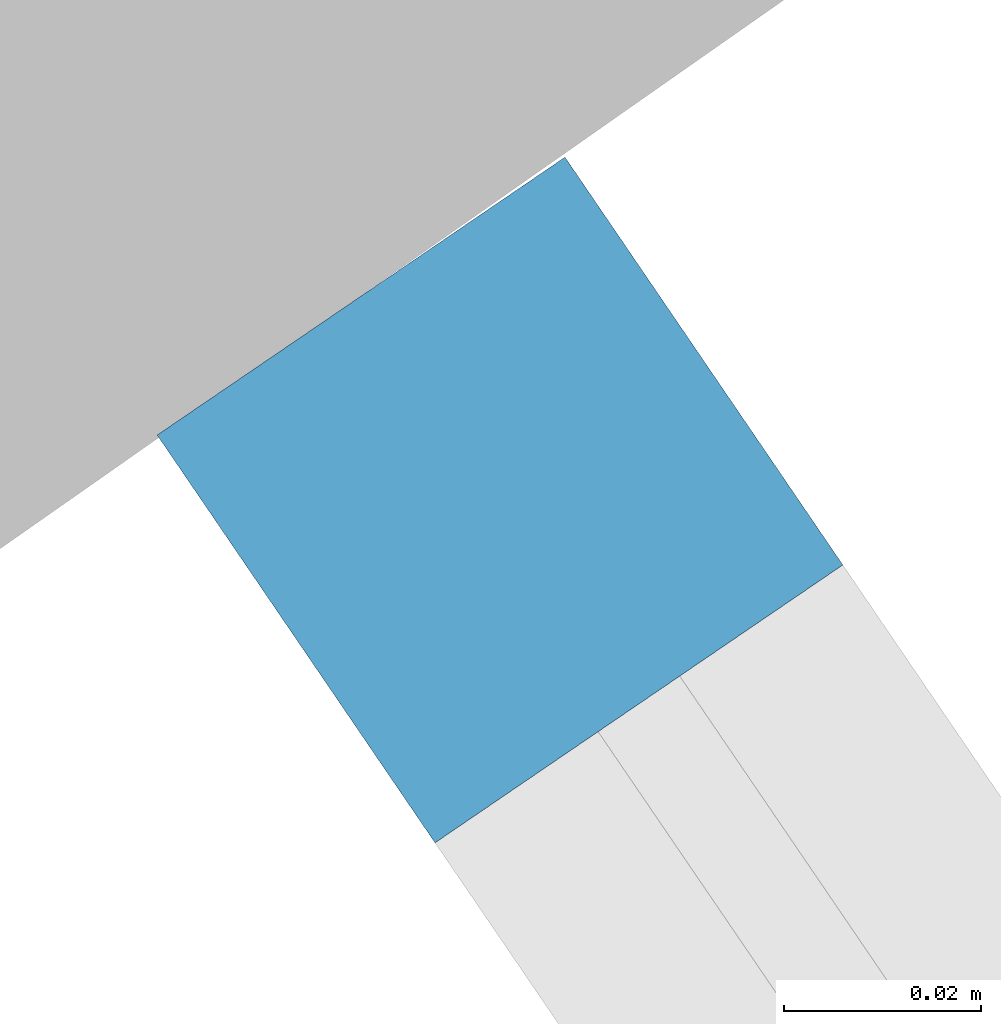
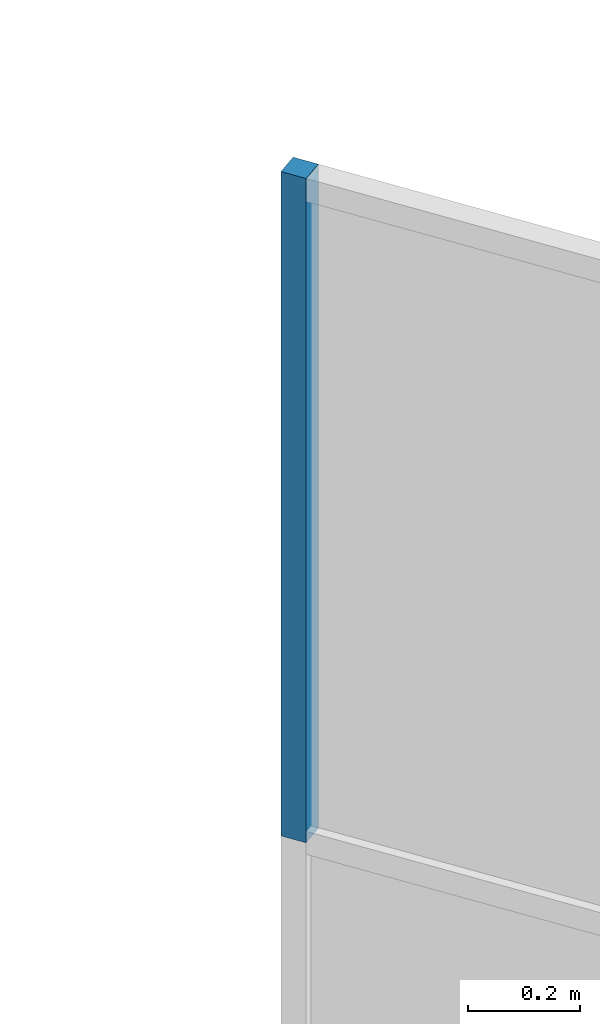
# One storey, part 20 of 157: 1 member, 1 element without a shape of its own.
"""IFC2X3 building model written with IfcOpenShell, lengths in millimetres."""

from ifc_helpers import new_model, entity, si_unit, converted_unit, derived_unit, direction, frame, origin, origin_2d_with_axis, place, context, subcontext, project, spatial, rectangle, extrude, source, transform, mapped, material, type_object, type_shapes, element, aggregate, save


model = new_model("IFC2X3")

# Units and contexts
model_context = context("Model", 3, precision=0.01, world=origin(), true_north=direction((6.123031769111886e-17, 1.0)))
body_context = subcontext(model_context, "Body", "Model", "MODEL_VIEW")
ifc_project = project(units=[si_unit("LENGTHUNIT", "METRE", prefix="MILLI"), si_unit("AREAUNIT", "SQUARE_METRE"), si_unit("VOLUMEUNIT", "CUBIC_METRE"), converted_unit("PLANEANGLEUNIT", "DEGREE", entity("IfcRatioMeasure", 0.017453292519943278), si_unit("PLANEANGLEUNIT", "RADIAN"), dimensions=[0, 0, 0, 0, 0, 0, 0]), si_unit("MASSUNIT", "GRAM", prefix="KILO"), derived_unit("MASSDENSITYUNIT", [(si_unit("MASSUNIT", "GRAM", prefix="KILO"), 1), (si_unit("LENGTHUNIT", "METRE"), -3)]), derived_unit("MOMENTOFINERTIAUNIT", [(si_unit("LENGTHUNIT", "METRE"), 4)]), si_unit("TIMEUNIT", "SECOND"), si_unit("FREQUENCYUNIT", "HERTZ"), si_unit("THERMODYNAMICTEMPERATUREUNIT", "DEGREE_CELSIUS"), derived_unit("THERMALTRANSMITTANCEUNIT", [(si_unit("MASSUNIT", "GRAM", prefix="KILO"), 1), (si_unit("THERMODYNAMICTEMPERATUREUNIT", "KELVIN"), -1), (si_unit("TIMEUNIT", "SECOND"), -3)]), derived_unit("THERMALCONDUCTANCEUNIT", [(si_unit("MASSUNIT", "GRAM", prefix="KILO"), 1), (si_unit("LENGTHUNIT", "METRE"), 1), (si_unit("THERMODYNAMICTEMPERATUREUNIT", "KELVIN"), -1), (si_unit("TIMEUNIT", "SECOND"), -3)]), derived_unit("VOLUMETRICFLOWRATEUNIT", [(si_unit("LENGTHUNIT", "METRE"), 3), (si_unit("TIMEUNIT", "SECOND"), -1)]), derived_unit("MASSFLOWRATEUNIT", [(si_unit("MASSUNIT", "GRAM", prefix="KILO"), 1), (si_unit("TIMEUNIT", "SECOND"), -1)]), derived_unit("ROTATIONALFREQUENCYUNIT", [(si_unit("TIMEUNIT", "SECOND"), -1)]), si_unit("ELECTRICCURRENTUNIT", "AMPERE"), si_unit("ELECTRICVOLTAGEUNIT", "VOLT"), si_unit("POWERUNIT", "WATT"), converted_unit("FORCEUNIT", "KIP", entity("IfcRatioMeasure", 2.088543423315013e-05), si_unit("FORCEUNIT", "NEWTON"), dimensions=[1, 1, -2, 0, 0, 0, 0]), si_unit("ILLUMINANCEUNIT", "LUX"), si_unit("LUMINOUSFLUXUNIT", "LUMEN"), si_unit("LUMINOUSINTENSITYUNIT", "CANDELA"), derived_unit("USERDEFINED", [(si_unit("MASSUNIT", "GRAM", prefix="KILO"), -1), (si_unit("LENGTHUNIT", "METRE"), -2), (si_unit("TIMEUNIT", "SECOND"), 3), (si_unit("LUMINOUSFLUXUNIT", "LUMEN"), 1)]), derived_unit("USERDEFINED", [(si_unit("MASSUNIT", "GRAM", prefix="KILO"), 1), (si_unit("LENGTHUNIT", "METRE"), 3), (si_unit("TIMEUNIT", "SECOND"), -3), (si_unit("ELECTRICCURRENTUNIT", "AMPERE"), -2)]), derived_unit("USERDEFINED", [(si_unit("LENGTHUNIT", "METRE"), 2), (si_unit("TIMEUNIT", "SECOND"), -2)]), derived_unit("SOUNDPOWERUNIT", [(si_unit("MASSUNIT", "GRAM", prefix="KILO"), 1), (si_unit("LENGTHUNIT", "METRE"), 2), (si_unit("TIMEUNIT", "SECOND"), -3)]), derived_unit("SOUNDPRESSUREUNIT", [(si_unit("MASSUNIT", "GRAM", prefix="KILO"), 1), (si_unit("LENGTHUNIT", "METRE"), -1), (si_unit("TIMEUNIT", "SECOND"), -2)]), derived_unit("LINEARVELOCITYUNIT", [(si_unit("LENGTHUNIT", "METRE"), 1), (si_unit("TIMEUNIT", "SECOND"), -1)]), si_unit("PRESSUREUNIT", "PASCAL"), derived_unit("USERDEFINED", [(si_unit("LENGTHUNIT", "METRE"), -2), (si_unit("MASSUNIT", "GRAM", prefix="KILO"), 1), (si_unit("TIMEUNIT", "SECOND"), -2)]), derived_unit("LINEARFORCEUNIT", [(si_unit("MASSUNIT", "GRAM", prefix="KILO"), 1), (si_unit("LENGTHUNIT", "METRE"), 1), (si_unit("TIMEUNIT", "SECOND"), -2), (si_unit("LENGTHUNIT", "METRE"), -1)]), derived_unit("PLANARFORCEUNIT", [(si_unit("MASSUNIT", "GRAM", prefix="KILO"), 1), (si_unit("LENGTHUNIT", "METRE"), 1), (si_unit("TIMEUNIT", "SECOND"), -2), (si_unit("LENGTHUNIT", "METRE"), -2)]), derived_unit("SPECIFICHEATCAPACITYUNIT", [(si_unit("LENGTHUNIT", "METRE"), 2), (si_unit("TIMEUNIT", "SECOND"), -2), (si_unit("THERMODYNAMICTEMPERATUREUNIT", "KELVIN"), -1)]), derived_unit("VAPORPERMEABILITYUNIT", [(si_unit("TIMEUNIT", "SECOND"), 1), (si_unit("LENGTHUNIT", "METRE"), -1)]), derived_unit("DYNAMICVISCOSITYUNIT", [(si_unit("MASSUNIT", "GRAM", prefix="KILO"), 1), (si_unit("LENGTHUNIT", "METRE"), -1), (si_unit("TIMEUNIT", "SECOND"), -1)]), derived_unit("THERMALEXPANSIONCOEFFICIENTUNIT", [(si_unit("THERMODYNAMICTEMPERATUREUNIT", "KELVIN"), -1)])], contexts=[model_context])

# Site, building, storey
site_placement = place(None, frame((0.0, 0.0, 0.0), z_axis=(0.0, 0.0, 1.0), x_axis=(0.8191520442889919, 0.5735764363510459, 0.0)))
site = spatial("IfcSite", under=ifc_project, at=site_placement, Name="Default", CompositionType="ELEMENT")
building_placement = place(site_placement, origin())
building = spatial("IfcBuilding", under=site, at=building_placement, CompositionType="ELEMENT")
storey_placement = place(building_placement, origin())
storey = spatial("IfcBuildingStorey", under=building, at=storey_placement, Name="1.EG +0.00", CompositionType="ELEMENT", Elevation=-4.331468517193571e-12)

# Curtain wall, member
curtain_wall_type = type_object("IfcCurtainWallType", Name="Curtain Wall:Curtain_Wall_CJC", PredefinedType="NOTDEFINED")
curtain_wall_placement = place(storey_placement, origin())
curtain_wall = element("IfcCurtainWall", 1, at=curtain_wall_placement, inside=storey, type_object=curtain_wall_type, Name="Curtain Wall:Curtain_Wall_CJC", ObjectType="Curtain Wall:Curtain_Wall_CJC")
ifc_material = material(Name="Aluminium")
member_type = type_object("IfcMemberType", Name="Rectangular Mullion:5x5", PredefinedType="MULLION", material=ifc_material)
shared_shape = source(origin(), body_context, "Body", "SweptSolid", [
    extrude(rectangle(XDim=50.0, YDim=50.0, at=origin_2d_with_axis()), frame((-25.0, 0.0, -1450.0), z_axis=(0.0, 0.0, 1.0), x_axis=(0.0, -1.0, 0.0)), (0.0, 0.0, 1.0), 1450.0000000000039),
])
type_shapes(member_type, [shared_shape])
member_placement = place(curtain_wall_placement, frame((-223050.52008220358, 115521.3589143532, 20400.0), z_axis=(0.0, 0.0, -1.0), x_axis=(0.01272958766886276, 0.999918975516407, 0.0)))
member = element("IfcMember", 2, at=member_placement, type_object=member_type, material=ifc_material, Name="Rectangular Mullion:5x5", ObjectType="Rectangular Mullion:5x5", context=body_context, shape_type="MappedRepresentation", body=[
    mapped(shared_shape, transform((0.0, 0.0, 0.0), scale=1.0)),
])
aggregate(curtain_wall, [member])

save(model, "model.ifc")
